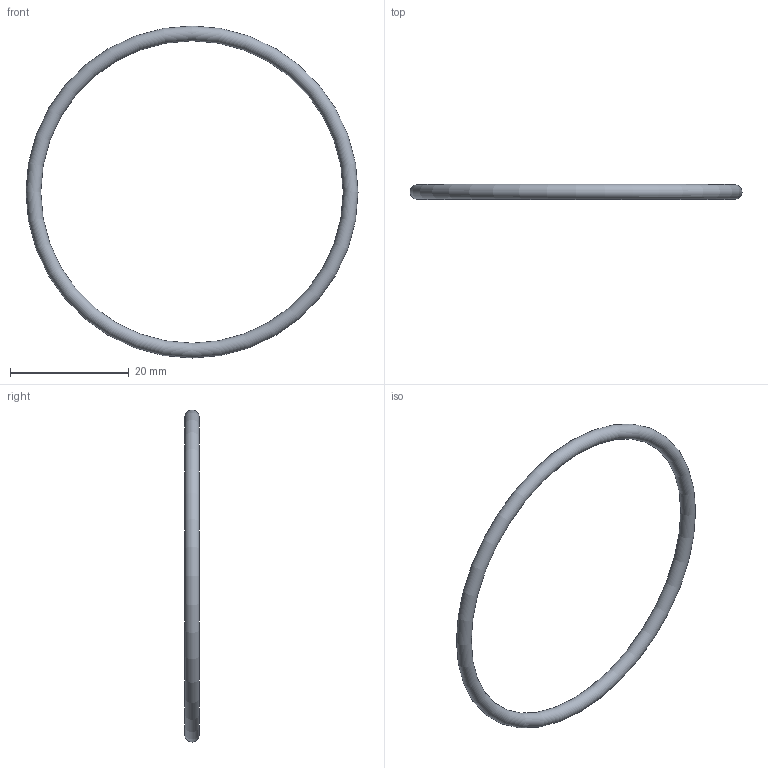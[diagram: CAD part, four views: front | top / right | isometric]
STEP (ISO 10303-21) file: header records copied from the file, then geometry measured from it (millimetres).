
FILE_DESCRIPTION( ( 'STEP AP203' ), '1' );
FILE_NAME( 'C:/Temp/Ganter_Step_05_03_2020/data/3_5/or638/O-Ring OR638-51.00-2.50-70.stp', '2020-03-12T13:44:28', ( 'License CC BY-ND 4.0' ), ( 'CADENAS' ), ' ', 'PARTsolutions', ' ' );
FILE_SCHEMA( ( 'CONFIG_CONTROL_DESIGN' ) );
Length unit declared in the file: millimetre
Products named in the file (1): _O-Ring OR638-51.00-2.50-70
Bounding box: 56 x 2.5 x 56 mm (x, y, z)
Volume: 825 mm3; surface area: 1320.1 mm2
Topology: 1 solids, 1 shells, 1 faces, 2 edges, 1 vertices
Faces by surface type: torus 1
Entity records: 62 total; most frequent: CC_DESIGN_PERSON_AND_ORGANIZATION_ASSIGNMENT 5, PERSON_AND_ORGANIZATION_ROLE 4, DIRECTION 4, CARTESIAN_POINT 3, DATE_TIME_ROLE 2, CC_DESIGN_DATE_AND_TIME_ASSIGNMENT 2, AXIS2_PLACEMENT_3D 2, DIMENSIONAL_EXPONENTS 2
